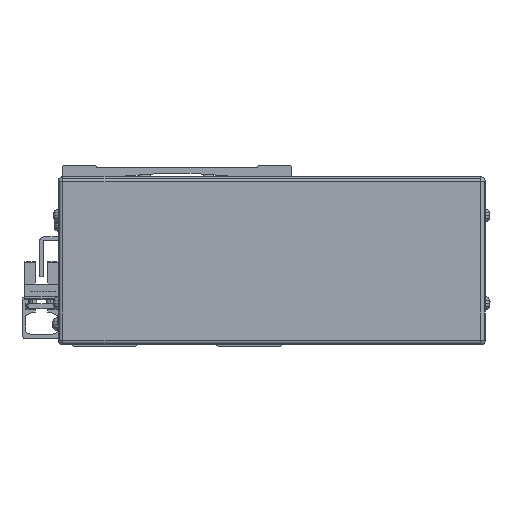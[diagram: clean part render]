
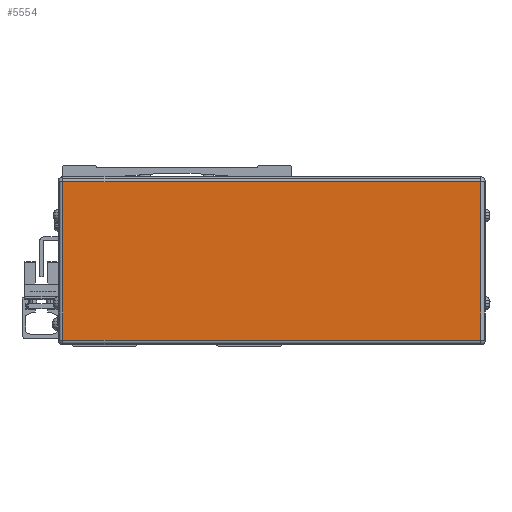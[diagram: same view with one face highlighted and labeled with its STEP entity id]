
A CAD part, front view. The second image highlights one B-rep face of the part: STEP entity #5554.
In plain terms, the highlighted planar face has unit normal (0, -1, 0).
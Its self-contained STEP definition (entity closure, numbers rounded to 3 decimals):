
#5554=ADVANCED_FACE('',(#12001),#12002,.T.);
#12001=FACE_OUTER_BOUND('',#20492,.T.);
#12002=PLANE('',#20493);
#20492=EDGE_LOOP('',(#36669,#36670,#36671,#36672));
#20493=AXIS2_PLACEMENT_3D('',#36673,#36674,#36675);
#36669=ORIENTED_EDGE('',*,*,#48973,.F.);
#36670=ORIENTED_EDGE('',*,*,#48504,.F.);
#36671=ORIENTED_EDGE('',*,*,#52003,.F.);
#36672=ORIENTED_EDGE('',*,*,#52614,.F.);
#36673=CARTESIAN_POINT('',(39.,-113.778,-42.5));
#36674=DIRECTION('',(0.0,-1.0,0.0));
#36675=DIRECTION('',(1.0,0.0,0.0));
#48504=EDGE_CURVE('',#58805,#55585,#58807,.T.);
#48973=EDGE_CURVE('',#55585,#59577,#59578,.T.);
#52003=EDGE_CURVE('',#64152,#58805,#64154,.T.);
#52614=EDGE_CURVE('',#59577,#64152,#64966,.T.);
#55585=VERTEX_POINT('',#68596);
#58805=VERTEX_POINT('',#73291);
#58807=LINE('',#73293,#73294);
#59577=VERTEX_POINT('',#74414);
#59578=LINE('',#74415,#74416);
#64152=VERTEX_POINT('',#81276);
#64154=LINE('',#81278,#81279);
#64966=LINE('',#82459,#82460);
#68596=CARTESIAN_POINT('',(124.7,-113.778,-40.5));
#73291=CARTESIAN_POINT('',(124.7,-113.778,24.5));
#73293=CARTESIAN_POINT('',(124.7,-113.778,-42.5));
#73294=VECTOR('',#89046,10.0);
#74414=CARTESIAN_POINT('',(-46.7,-113.778,-40.5));
#74415=CARTESIAN_POINT('',(39.,-113.778,-40.5));
#74416=VECTOR('',#89558,10.0);
#81276=CARTESIAN_POINT('',(-46.7,-113.778,24.5));
#81278=CARTESIAN_POINT('',(39.,-113.778,24.5));
#81279=VECTOR('',#93257,10.0);
#82459=CARTESIAN_POINT('',(-46.7,-113.778,-42.5));
#82460=VECTOR('',#93946,10.0);
#89046=DIRECTION('',(0.0,0.0,-1.0));
#89558=DIRECTION('',(-1.0,0.0,0.0));
#93257=DIRECTION('',(1.0,0.0,0.0));
#93946=DIRECTION('',(0.0,0.0,1.0));
